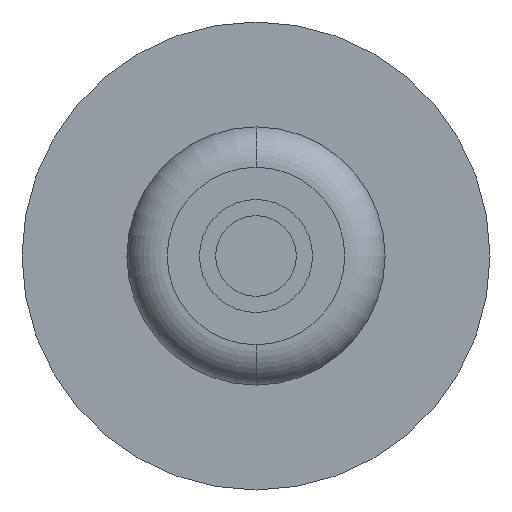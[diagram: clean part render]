
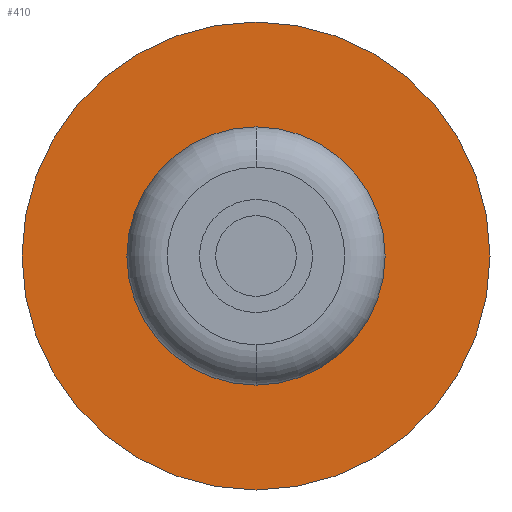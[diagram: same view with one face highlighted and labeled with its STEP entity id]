
A CAD part, front view. The second image highlights one B-rep face of the part: STEP entity #410.
In plain terms, the highlighted planar face has unit normal (0, -1, 0).
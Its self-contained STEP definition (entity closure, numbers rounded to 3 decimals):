
#77=CARTESIAN_POINT('',(0.,-2.15,0.));
#78=DIRECTION('',(0.,-1.,0.));
#79=DIRECTION('',(0.,0.,-1.));
#80=AXIS2_PLACEMENT_3D('',#77,#78,#79);
#90=CARTESIAN_POINT('',(0.,-2.15,0.));
#91=DIRECTION('',(0.,1.,0.));
#92=DIRECTION('',(0.,0.,-1.));
#93=AXIS2_PLACEMENT_3D('',#90,#91,#92);
#95=CARTESIAN_POINT('',(0.,-2.15,0.));
#96=DIRECTION('',(0.,-1.,0.));
#97=DIRECTION('',(0.,0.,-1.));
#98=AXIS2_PLACEMENT_3D('',#95,#96,#97);
#100=CARTESIAN_POINT('',(0.,-2.15,0.));
#101=DIRECTION('',(0.,1.,0.));
#102=DIRECTION('',(0.,0.,-1.));
#103=AXIS2_PLACEMENT_3D('',#100,#101,#102);
#217=CARTESIAN_POINT('',(0.,-2.15,-0.8));
#218=VERTEX_POINT('',#217);
#219=CARTESIAN_POINT('',(0.,-2.15,-1.45));
#221=VERTEX_POINT('',#219);
#243=CARTESIAN_POINT('',(0.,-2.15,0.8));
#244=VERTEX_POINT('',#243);
#245=CARTESIAN_POINT('',(0.,-2.15,1.45));
#247=VERTEX_POINT('',#245);
#395=CARTESIAN_POINT('',(0.,-2.15,0.));
#396=DIRECTION('',(0.,-1.,0.));
#397=DIRECTION('',(0.,0.,1.));
#398=AXIS2_PLACEMENT_3D('',#395,#396,#397);
#399=PLANE('',#398);
#400=ORIENTED_EDGE('',*,*,#390,.T.);
#401=ORIENTED_EDGE('',*,*,#374,.F.);
#402=EDGE_LOOP('',(#400,#401));
#403=FACE_OUTER_BOUND('',#402,.F.);
#405=ORIENTED_EDGE('',*,*,#404,.T.);
#407=ORIENTED_EDGE('',*,*,#406,.F.);
#408=EDGE_LOOP('',(#405,#407));
#409=FACE_BOUND('',#408,.F.);
#410=ADVANCED_FACE('',(#403,#409),#399,.T.);
#81=CIRCLE('',#80,1.45);
#94=CIRCLE('',#93,1.45);
#99=CIRCLE('',#98,0.8);
#104=CIRCLE('',#103,0.8);
#374=EDGE_CURVE('',#221,#247,#81,.T.);
#390=EDGE_CURVE('',#221,#247,#94,.T.);
#404=EDGE_CURVE('',#218,#244,#99,.T.);
#406=EDGE_CURVE('',#218,#244,#104,.T.);
